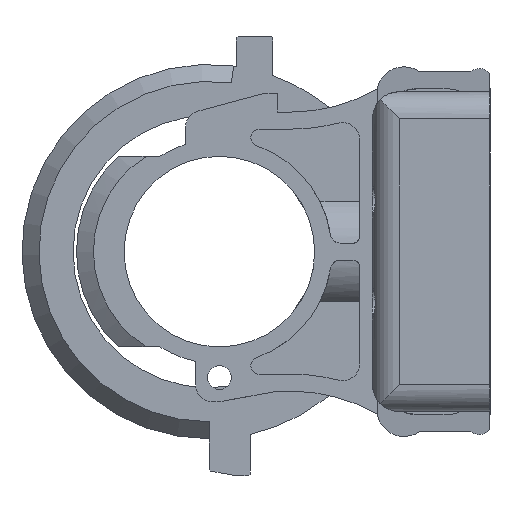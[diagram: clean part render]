
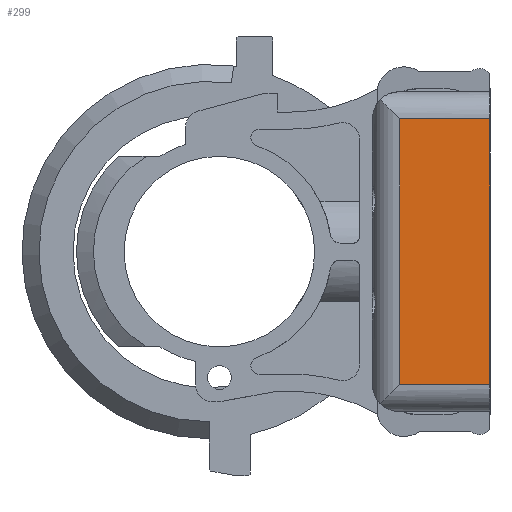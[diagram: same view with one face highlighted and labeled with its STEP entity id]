
A CAD part, left-side view. The second image highlights one B-rep face of the part: STEP entity #299.
In plain terms, the highlighted planar face has unit normal (-1, 0, 0).
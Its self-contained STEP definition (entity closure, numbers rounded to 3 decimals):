
#299 = ADVANCED_FACE( '', ( #733 ), #734, .F. );
#733 = FACE_OUTER_BOUND( '', #1370, .T. );
#734 = PLANE( '', #1371 );
#1370 = EDGE_LOOP( '', ( #1998, #1999, #2000, #2001 ) );
#1371 = AXIS2_PLACEMENT_3D( '', #2002, #2003, #2004 );
#1998 = ORIENTED_EDGE( '', *, *, #3822, .F. );
#1999 = ORIENTED_EDGE( '', *, *, #3823, .F. );
#2000 = ORIENTED_EDGE( '', *, *, #3824, .T. );
#2001 = ORIENTED_EDGE( '', *, *, #3825, .T. );
#2002 = CARTESIAN_POINT( '', ( 0., 26.55, 39. ) );
#2003 = DIRECTION( '', ( 1., 0., 0. ) );
#2004 = DIRECTION( '', ( 0., 0., -1. ) );
#3822 = EDGE_CURVE( '', #4545, #4546, #4547, .T. );
#3823 = EDGE_CURVE( '', #4548, #4545, #4549, .T. );
#3824 = EDGE_CURVE( '', #4548, #4550, #4551, .T. );
#3825 = EDGE_CURVE( '', #4550, #4546, #4552, .T. );
#4545 = VERTEX_POINT( '', #5656 );
#4546 = VERTEX_POINT( '', #5657 );
#4547 = LINE( '', #5658, #5659 );
#4548 = VERTEX_POINT( '', #5660 );
#4549 = LINE( '', #5661, #5662 );
#4550 = VERTEX_POINT( '', #5663 );
#4551 = LINE( '', #5664, #5665 );
#4552 = LINE( '', #5666, #5667 );
#5656 = CARTESIAN_POINT( '', ( 0., 0., 39. ) );
#5657 = CARTESIAN_POINT( '', ( 0., 0., -39. ) );
#5658 = CARTESIAN_POINT( '', ( 0., 0., 47. ) );
#5659 = VECTOR( '', #7465, 1000. );
#5660 = CARTESIAN_POINT( '', ( 0., 26.55, 39. ) );
#5661 = CARTESIAN_POINT( '', ( 0., 34.55, 39. ) );
#5662 = VECTOR( '', #7466, 1000. );
#5663 = CARTESIAN_POINT( '', ( 0., 26.55, -39. ) );
#5664 = CARTESIAN_POINT( '', ( 0., 26.55, 47. ) );
#5665 = VECTOR( '', #7467, 1000. );
#5666 = CARTESIAN_POINT( '', ( 0., 34.55, -39. ) );
#5667 = VECTOR( '', #7468, 1000. );
#7465 = DIRECTION( '', ( 0., 0., -1. ) );
#7466 = DIRECTION( '', ( 0., -1., 0. ) );
#7467 = DIRECTION( '', ( 0., 0., -1. ) );
#7468 = DIRECTION( '', ( 0., -1., 0. ) );
